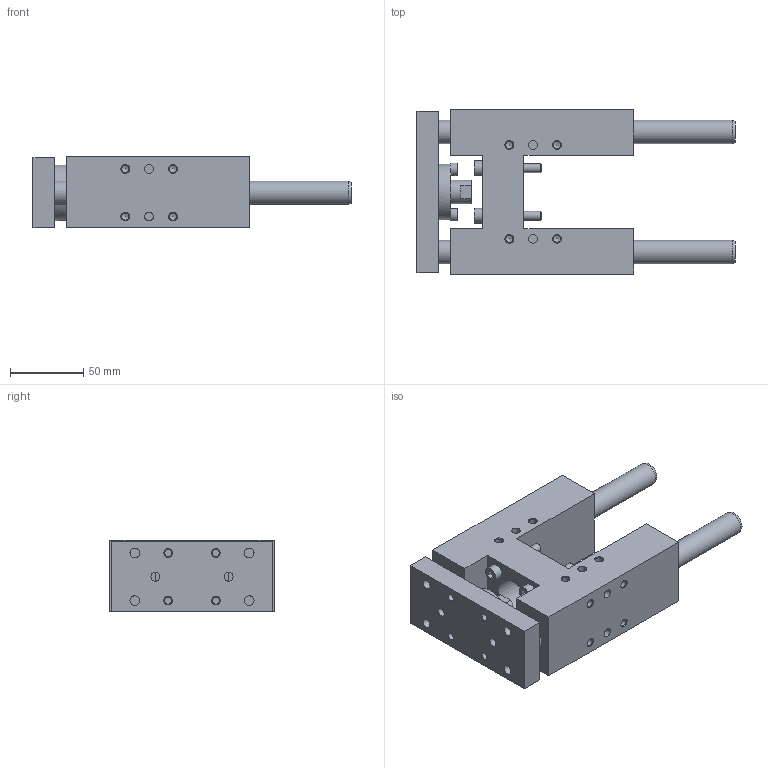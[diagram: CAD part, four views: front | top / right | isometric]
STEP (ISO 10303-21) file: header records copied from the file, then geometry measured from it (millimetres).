
FILE_DESCRIPTION( ( 'STEP AP214' ), '1' );
FILE_NAME( 'U:/Etudes/Top Solid/BIBLIO 3D AVM/TOP/PNEUMATIQUE/GUIDAGES/Type 32 (en H)/R_Renforcée/324R1_30.step', '2005-05-27T08:50:22', ( ' ' ), ( ' ' ), 'XStep 1.0', ' ', ' ' );
FILE_SCHEMA( ( 'automotive_design' ) );
Length unit declared in the file: metre
Products named in the file (2): 1; 2
Bounding box: 217 x 112 x 49 mm (x, y, z)
Volume: 539041.2 mm3; surface area: 117196.1 mm2
Topology: 2 solids, 5 shells, 269 faces, 602 edges, 401 vertices
Faces by surface type: plane 128, cylinder 96, cone 45
Full cylindrical faces by diameter (mm): 4.918 x32, 5 x4, 5.5 x2, 6 x16, 6.2 x12, 6.5 x4, 6.6 x4, 8.5 x2, 8.647 x2, 10 x4, 11 x4, 16 x5, 18 x1, 22.8 x1, 25 x1, 30 x1, 38 x1
Entity records: 8627 total; most frequent: CARTESIAN_POINT 1195, DIRECTION 1138, ORIENTED_EDGE 772, EDGE_LOOP 500, AXIS2_PLACEMENT_3D 487, EDGE_CURVE 386, FACE_OUTER_BOUND 365, VERTEX_POINT 340
